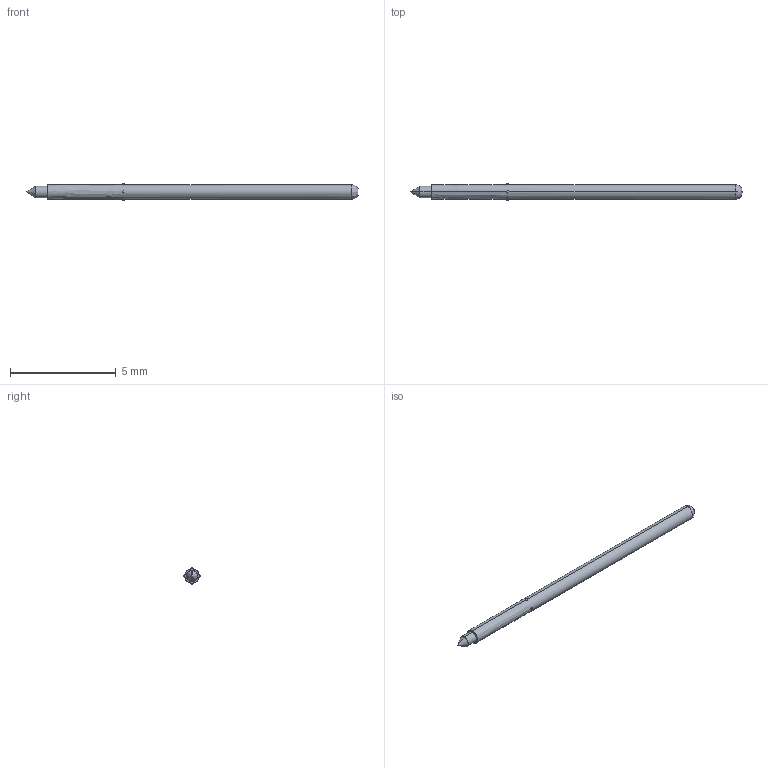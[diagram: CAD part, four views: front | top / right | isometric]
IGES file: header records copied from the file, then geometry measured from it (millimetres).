
Start section: SolidWorks IGES file using analytic representation for surfaces
Global section: file name: O:\PYLON\IGES FILES\P2662A\P2662A-1C1S FULL.IGS; native system: SolidWorks 2015; preprocessor: SolidWorks 2015; author: kgolden; date: 171019.085409; units: inch
Bounding box: 15.72 x 0.79 x 0.79 mm (x, y, z)
Surface area: 35.8 mm2 (no closed solid volume)
Topology: 0 solids, 0 shells, 20 faces, 184 edges, 166 vertices
Faces by surface type: revolution 16, bspline 4
